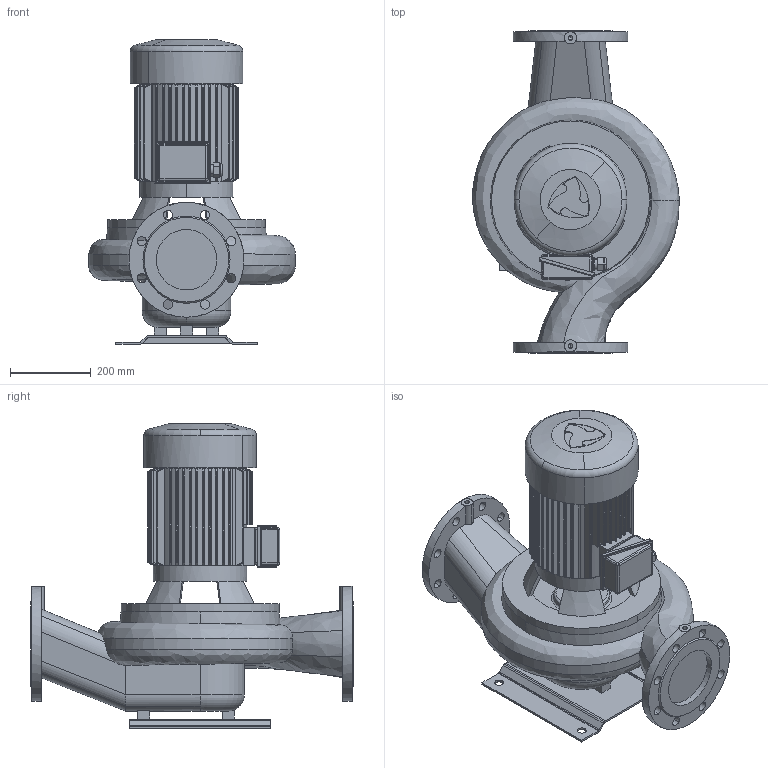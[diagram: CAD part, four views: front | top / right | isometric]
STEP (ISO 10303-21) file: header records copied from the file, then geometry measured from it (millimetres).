
FILE_DESCRIPTION(('STEP AP214'),'1');
FILE_NAME('export.stp','2018-05-28T10:46:27',(' '),(' '),'Spatial InterOp 3D',' ',' ');
FILE_SCHEMA(('AUTOMOTIVE_DESIGN { 1 0 10303 214 1 1 1 1 }'));
Length unit declared in the file: millimetre
Products named in the file (12): W_AL11544550KP133; V_TL110611291154; P100496; P100495; P100342; V_MOKN133; RU_OKN_133; TSUOJA_OKN_132_133; KYTKOTELO_OKN_100_133; V_MKP133-G2-F31; V_EKF31OKN132133; V_PPAL1154
Assembly tree (12 placements, depth 4):
  W_AL11544550KP133
    V_TL110611291154
    P100496
      P100495  x2
      P100342
    V_MKP133-G2-F31
      V_MOKN133
        RU_OKN_133
        TSUOJA_OKN_132_133
        KYTKOTELO_OKN_100_133
      V_EKF31OKN132133
    V_PPAL1154
Bounding box: 512.81 x 800 x 756 mm (x, y, z)
Volume: 58171178.3 mm3; surface area: 2789553.6 mm2
Topology: 9 solids, 10 shells, 762 faces, 1951 edges, 1221 vertices
Faces by surface type: cylinder 342, plane 274, cone 104, torus 16, bspline 14, sphere 12
Entity records: 39723 total; most frequent: CARTESIAN_POINT 8672, ORIENTED_EDGE 3834, DIRECTION 3710, STYLED_ITEM 2142, PRESENTATION_STYLE_ASSIGNMENT 2142, COLOUR_RGB 2142, EDGE_CURVE 1917, AXIS2_PLACEMENT_3D 1485
